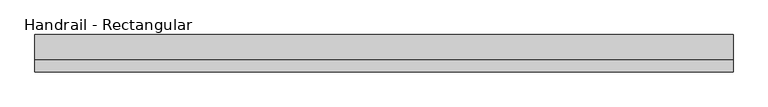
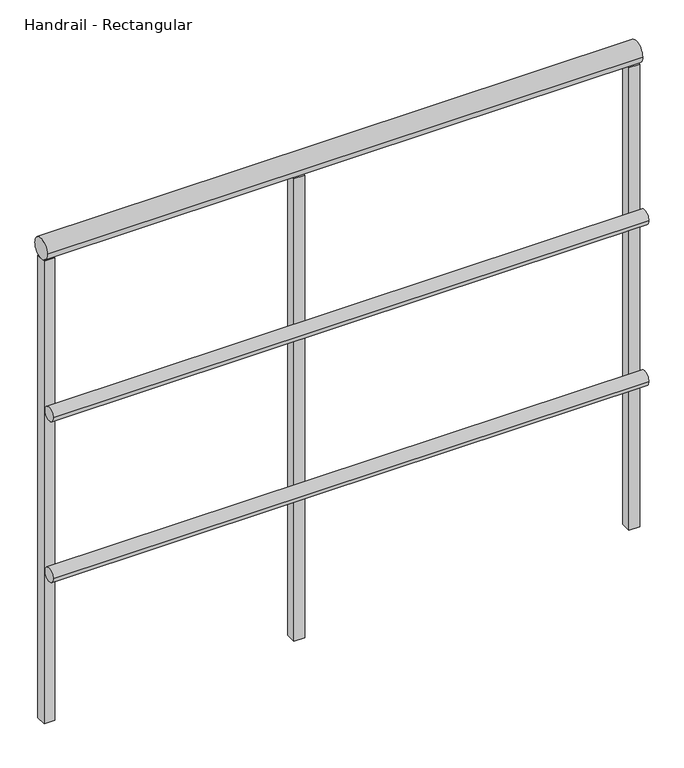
"""IFC4 building model written with IfcOpenShell, lengths in millimetres: railing geometry, Handrail - Rectangular."""

import ifcopenshell
import ifcopenshell.guid

model = None  # the IFC model being written
_history = None  # IfcOwnerHistory: only IFC2X3 demands one
_inside = {}  # id of a spatial element -> (the spatial element, [elements in it])
_under = {}  # id of a project, library or spatial element -> (it, [spatial elements below it])
_declared = {}  # id of a project -> (the project, [libraries it declares])
_typed = {}  # id of a type object -> (the type object, [elements of that type])
_made_of = {}  # id of a material, layer set ... -> (it, [elements and type objects made of it])


def new_model(schema):
    """Start an empty IFC model of exactly this schema.

    Asked for "IFC4X3", IfcOpenShell would pick the latest addendum, in which some entities
    have other attributes; the version numbers below select the first issue.
    IFC2X3 requires an IfcOwnerHistory on every rooted entity: one is made here for all.
    """
    global model, _history
    if schema == "IFC4X3":
        model = ifcopenshell.file(schema_version=(4, 3, 0, 0))
    else:
        model = ifcopenshell.file(schema=schema)
    _inside.clear()
    _under.clear()
    _declared.clear()
    _typed.clear()
    _made_of.clear()
    _history = None
    if model.schema == "IFC2X3":
        org = make("IfcOrganization", Name="unknown")
        user = make(
            "IfcPersonAndOrganization",
            ThePerson=make("IfcPerson", FamilyName="unknown"),
            TheOrganization=org,
        )
        app = make(
            "IfcApplication",
            ApplicationDeveloper=org,
            Version="unknown",
            ApplicationFullName="unknown",
            ApplicationIdentifier="unknown",
        )
        _history = make(
            "IfcOwnerHistory",
            OwningUser=user,
            OwningApplication=app,
            ChangeAction="ADDED",
            CreationDate=0,
        )
    return model


def make(cls, **values):
    """One entity of the class cls with the attributes given. An attribute that is None is left unset."""
    return model.create_entity(
        cls, **{name: value for name, value in values.items() if value is not None}
    )


def rooted(cls, **values):
    """An entity with a GlobalId (a new one), such as an element, a storey or a relation."""
    return make(cls, GlobalId=ifcopenshell.guid.new(), OwnerHistory=_history, **values)


def si_unit(unit_type, name, prefix=None):
    """IfcSIUnit, for example si_unit("LENGTHUNIT", "METRE", prefix="MILLI")."""
    return make("IfcSIUnit", UnitType=unit_type, Prefix=prefix, Name=name)


def assignment(units):
    """IfcUnitAssignment: the units of a project."""
    return None if units is None else make("IfcUnitAssignment", Units=units)


def point(xyz):
    """IfcCartesianPoint."""
    return None if xyz is None else make("IfcCartesianPoint", Coordinates=xyz)


def direction(xyz):
    """IfcDirection."""
    return None if xyz is None else make("IfcDirection", DirectionRatios=xyz)


def frame(location, z_axis=None, x_axis=None):
    """IfcAxis2Placement3D, a coordinate frame: its origin and axes. An axis left out is left unset."""
    return make(
        "IfcAxis2Placement3D",
        Location=point(location),
        Axis=direction(z_axis),
        RefDirection=direction(x_axis),
    )


def frame_2d(location, x_axis=None):
    """IfcAxis2Placement2D, a coordinate frame in the plane: its origin and x axis."""
    return make(
        "IfcAxis2Placement2D", Location=point(location), RefDirection=direction(x_axis)
    )


def origin():
    """The frame at (0, 0, 0) with its axes left unset."""
    return frame((0.0, 0.0, 0.0))


def place(relative_to, where):
    """IfcLocalPlacement: puts the frame where relative to a parent placement (None: the world)."""
    return make(
        "IfcLocalPlacement", PlacementRelTo=relative_to, RelativePlacement=where
    )


def context(
    kind, dimensions, precision=None, world=None, true_north=None, identifier=None
):
    """IfcGeometricRepresentationContext, for example the 3D "Model" context."""
    return make(
        "IfcGeometricRepresentationContext",
        ContextIdentifier=identifier,
        ContextType=kind,
        CoordinateSpaceDimension=dimensions,
        Precision=precision,
        WorldCoordinateSystem=world,
        TrueNorth=true_north,
    )


def project(units=None, contexts=None):
    """IfcProject with its units and contexts."""
    return rooted(
        "IfcProject",
        Name="project",
        RepresentationContexts=contexts,
        UnitsInContext=assignment(units),
    )


def spatial(cls, under=None, at=None, **own):
    """A site, building, storey or space (cls), placed at a placement, below another one or the project."""
    s = rooted(cls, ObjectPlacement=at, **own)
    if under is not None:
        _under.setdefault(under.id(), (under, []))[1].append(s)
    return s


def polyline(points):
    """IfcPolyline through the points."""
    return make("IfcPolyline", Points=[point(p) for p in points])


def circle_curve(where, radius):
    """IfcCircle in the frame where."""
    return make("IfcCircle", Position=where, Radius=radius)


def trimmed(basis, trim1, trim2, sense, master):
    """IfcTrimmedCurve: the piece of a basis curve between two trims."""
    return make(
        "IfcTrimmedCurve",
        BasisCurve=basis,
        Trim1=trim1,
        Trim2=trim2,
        SenseAgreement=sense,
        MasterRepresentation=master,
    )


def segment(curve, same_sense, transition):
    """IfcCompositeCurveSegment."""
    return make(
        "IfcCompositeCurveSegment",
        Transition=transition,
        SameSense=same_sense,
        ParentCurve=curve,
    )


def composite_curve(segments, self_intersect=None):
    """IfcCompositeCurve: segments joined end to end."""
    return make("IfcCompositeCurve", Segments=segments, SelfIntersect=self_intersect)


def outline(outer, holes=None, kind="AREA"):
    """IfcArbitraryClosedProfileDef: a profile drawn as a closed curve; with holes, ...WithVoids."""
    if holes is None:
        return make("IfcArbitraryClosedProfileDef", ProfileType=kind, OuterCurve=outer)
    return make(
        "IfcArbitraryProfileDefWithVoids",
        ProfileType=kind,
        OuterCurve=outer,
        InnerCurves=holes,
    )


def extrude(swept, where, along, depth):
    """IfcExtrudedAreaSolid: the profile swept, set in the frame where, extruded along a direction by depth."""
    return make(
        "IfcExtrudedAreaSolid",
        SweptArea=swept,
        Position=where,
        ExtrudedDirection=direction(along),
        Depth=depth,
    )


def shape(context_of_items, identifier, shape_type, items):
    """IfcShapeRepresentation: the items that make up one representation, for example the "Body"."""
    return make(
        "IfcShapeRepresentation",
        ContextOfItems=context_of_items,
        RepresentationIdentifier=identifier,
        RepresentationType=shape_type,
        Items=items,
    )


def source(mapping_origin, context_of_items, identifier, shape_type, items):
    """IfcRepresentationMap: a shape defined once, which mapped items show again and again."""
    return make(
        "IfcRepresentationMap",
        MappingOrigin=mapping_origin,
        MappedRepresentation=shape(context_of_items, identifier, shape_type, items),
    )


def transform(
    local_origin,
    x_axis=None,
    y_axis=None,
    z_axis=None,
    scale=None,
    scale2=None,
    scale3=None,
    uniform=True,
):
    """IfcCartesianTransformationOperator3D, or its non-uniform kind. x_axis, y_axis, z_axis: its Axis1, 2, 3."""
    if uniform:
        return make(
            "IfcCartesianTransformationOperator3D",
            Axis1=direction(x_axis),
            Axis2=direction(y_axis),
            LocalOrigin=point(local_origin),
            Scale=scale,
            Axis3=direction(z_axis),
        )
    return make(
        "IfcCartesianTransformationOperator3DnonUniform",
        Axis1=direction(x_axis),
        Axis2=direction(y_axis),
        LocalOrigin=point(local_origin),
        Scale=scale,
        Axis3=direction(z_axis),
        Scale2=scale2,
        Scale3=scale3,
    )


def mapped(mapping_source, mapping_target):
    """IfcMappedItem: shows the shape of a source again, moved by a transform."""
    return make(
        "IfcMappedItem", MappingSource=mapping_source, MappingTarget=mapping_target
    )


def made_of(thing, what):
    """Note that an element or type object is made of a material, layer set ...; save() writes the relation."""
    if what is not None:
        _made_of.setdefault(what.id(), (what, []))[1].append(thing)
    return thing


def element(
    cls,
    number,
    at=None,
    inside=None,
    cuts=None,
    type_object=None,
    material=None,
    context=None,
    identifier="Body",
    shape_type=None,
    held_by="IfcProductDefinitionShape",
    body=None,
    shapes=None,
    **own,
):
    """One element of the class cls, such as IfcWall. Its Tag is "e" and its number.

    at: its placement. inside: the storey or other place that contains it. cuts: it is an
    opening in that element (IfcRelVoidsElement). A single representation is given by context,
    identifier, shape_type and body (its items); several are given by shapes. held_by: the class
    of the entity that holds the representations. save() writes the other relations.
    """
    e = rooted(cls, Tag="e%d" % number, ObjectPlacement=at, **own)
    if body is not None:
        shapes = [shape(context, identifier, shape_type, body)]
    if shapes is not None:
        e.Representation = make(held_by, Representations=shapes)
    if inside is not None:
        _inside.setdefault(inside.id(), (inside, []))[1].append(e)
    if cuts is not None:
        rooted(
            "IfcRelVoidsElement", RelatingBuildingElement=cuts, RelatedOpeningElement=e
        )
    if type_object is not None:
        _typed.setdefault(type_object.id(), (type_object, []))[1].append(e)
    return made_of(e, material)


def aggregate(whole, parts):
    """IfcRelAggregates: a whole, such as a stair, and the parts it consists of."""
    return rooted("IfcRelAggregates", RelatingObject=whole, RelatedObjects=parts)


def save(model, path):
    """Write the relations noted so far, then the file.

    IfcRelAggregates (storeys below a building ...), IfcRelContainedInSpatialStructure (elements
    in a storey), IfcRelDefinesByType, IfcRelAssociatesMaterial and IfcRelDeclares: one each for
    every whole, place, type object, material and project.
    """
    for whole, parts in _under.values():
        aggregate(whole, parts)
    for where, things in _inside.values():
        rooted(
            "IfcRelContainedInSpatialStructure",
            RelatedElements=things,
            RelatingStructure=where,
        )
    for kind, things in _typed.values():
        rooted("IfcRelDefinesByType", RelatedObjects=things, RelatingType=kind)
    for what, things in _made_of.values():
        rooted("IfcRelAssociatesMaterial", RelatedObjects=things, RelatingMaterial=what)
    for by, libraries in _declared.values():
        rooted("IfcRelDeclares", RelatingContext=by, RelatedDefinitions=libraries)
    model.write(path)


def handrail_rectangular_79dd763a(model_context):
    return source(origin(), model_context, "Body", "SweptSolid", [
        extrude(outline(composite_curve([segment(trimmed(circle_curve(frame_2d((-35578.5683133, 3644.9)), 12.7), [point((-35591.2683133, 3644.9))], [point((-35565.8683133, 3644.9))], False, "CARTESIAN"), True, "CONTINUOUS"), segment(trimmed(circle_curve(frame_2d((-35578.5683133, 3644.9)), 12.7), [point((-35565.8683133, 3644.9))], [point((-35591.2683133, 3644.9))], False, "CARTESIAN"), True, "CONTINUOUS")], self_intersect=False)), frame((-31964.2839563, 0.0, 0.0), z_axis=(1.0, 0.0, 0.0), x_axis=(0.0, 1.0, 0.0)), (0.0, 0.0, 1.0), 1066.8),
        extrude(outline(composite_curve([segment(trimmed(circle_curve(frame_2d((-35578.5683133, 3340.1)), 12.7), [point((-35591.2683133, 3340.1))], [point((-35565.8683133, 3340.1))], False, "CARTESIAN"), True, "CONTINUOUS"), segment(trimmed(circle_curve(frame_2d((-35578.5683133, 3340.1)), 12.7), [point((-35565.8683133, 3340.1))], [point((-35591.2683133, 3340.1))], False, "CARTESIAN"), True, "CONTINUOUS")], self_intersect=False)), frame((-31964.2839563, 0.0, 0.0), z_axis=(1.0, 0.0, 0.0), x_axis=(0.0, 1.0, 0.0)), (0.0, 0.0, 1.0), 1066.8),
        extrude(outline(composite_curve([segment(trimmed(circle_curve(frame_2d((-35553.1683133, 3943.35)), 19.05), [point((-35572.2183133, 3943.35))], [point((-35534.1183133, 3943.35))], False, "CARTESIAN"), True, "CONTINUOUS"), segment(trimmed(circle_curve(frame_2d((-35553.1683133, 3943.35)), 19.05), [point((-35534.1183133, 3943.35))], [point((-35572.2183133, 3943.35))], False, "CARTESIAN"), True, "CONTINUOUS")], self_intersect=False)), frame((-31964.2839563, 0.0, 0.0), z_axis=(1.0, 0.0, 0.0), x_axis=(0.0, 1.0, 0.0)), (0.0, 0.0, 1.0), 1066.8),
        extrude(outline(polyline([(-31497.5589563, -35543.6433133), (-31497.5589563, -35562.6933133), (-31516.6089563, -35562.6933133), (-31516.6089563, -35543.6433133), (-31497.5589563, -35543.6433133)])), frame((0.0, 0.0, 3048.0), z_axis=(0.0, 0.0, 1.0), x_axis=(1.0, 0.0, 0.0)), (0.0, 0.0, 1.0), 876.3),
        extrude(outline(polyline([(-31945.2339563, -35543.6433133), (-31945.2339563, -35562.6933133), (-31964.2839563, -35562.6933133), (-31964.2839563, -35543.6433133), (-31945.2339563, -35543.6433133)])), frame((0.0, 0.0, 3048.0), z_axis=(0.0, 0.0, 1.0), x_axis=(1.0, 0.0, 0.0)), (0.0, 0.0, 1.0), 876.3),
        extrude(outline(polyline([(-30897.4839563, -35543.6433133), (-30897.4839563, -35562.6933133), (-30916.5339563, -35562.6933133), (-30916.5339563, -35543.6433133), (-30897.4839563, -35543.6433133)])), frame((0.0, 0.0, 3048.0), z_axis=(0.0, 0.0, 1.0), x_axis=(1.0, 0.0, 0.0)), (0.0, 0.0, 1.0), 876.3),
    ])


if __name__ == "__main__":
    model = new_model("IFC4")
    model_context = context("Model", 3, world=origin())
    ifc_project = project(units=[si_unit("LENGTHUNIT", "METRE", prefix="MILLI")], contexts=[model_context])
    site = spatial("IfcSite", under=ifc_project)
    building = spatial("IfcBuilding", under=site)
    placement = place(None, origin())
    handrail_rectangular_shape = handrail_rectangular_79dd763a(model_context)
    element("IfcRailing", 1, ObjectType="Handrail - Rectangular", at=placement, inside=building, context=model_context, shape_type="MappedRepresentation", body=[
        mapped(handrail_rectangular_shape, transform((0.0, 0.0, 0.0), x_axis=(1.0, 0.0, 0.0), y_axis=(0.0, 1.0, 0.0), z_axis=(0.0, 0.0, 1.0))),
    ])
    save(model, "model.ifc")
